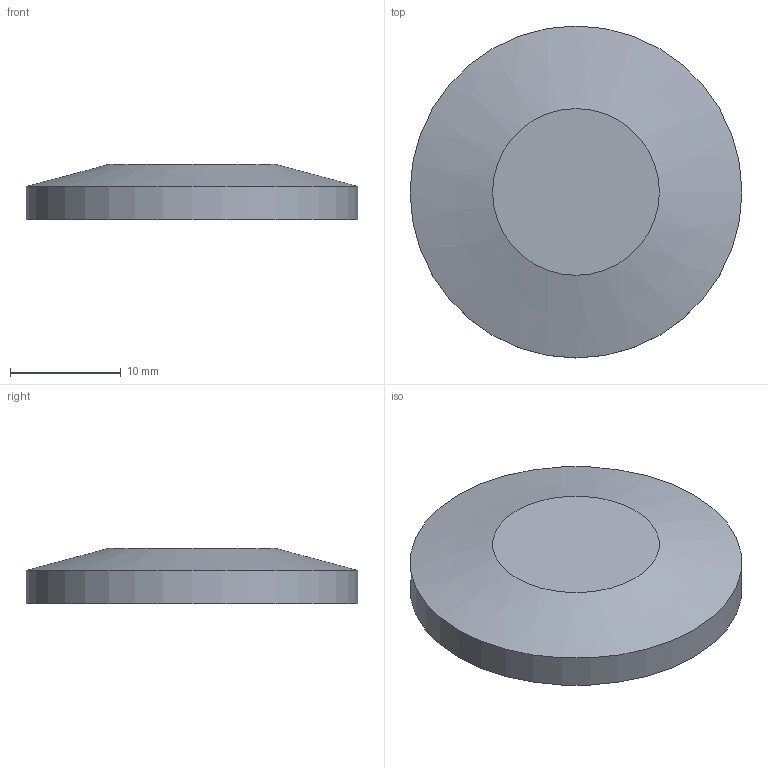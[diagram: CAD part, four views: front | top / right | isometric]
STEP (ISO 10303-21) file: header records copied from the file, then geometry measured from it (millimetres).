
FILE_DESCRIPTION( ( 'Unknown' ), '1' );
FILE_NAME( 'X:/Daten ( aktueller Bestand )/Projekte und Zeichnungen/Solid Edge/2 Bauteile KF/Messing/Blindflansch Messing/1412.stp', 'Unknown', ( 'Unknown' ), ( 'Unknown' ), 'XStep 1.0', 'Unknown', ' ' );
FILE_SCHEMA( ( 'automotive_design' ) );
Length unit declared in the file: millimetre
Products named in the file (1): 1
Bounding box: 30 x 30 x 5 mm (x, y, z)
Volume: 2551.4 mm3; surface area: 1926.4 mm2
Topology: 1 solids, 1 shells, 8 faces, 11 edges, 7 vertices
Faces by surface type: plane 4, cylinder 3, cone 1
Full cylindrical faces by diameter (mm): 9.7 x1, 17.2 x1, 30 x1
Entity records: 234 total; most frequent: DIRECTION 32, CARTESIAN_POINT 23, AXIS2_PLACEMENT_3D 16, EDGE_LOOP 14, ORIENTED_EDGE 14, FACE_OUTER_BOUND 11, STYLED_ITEM 8, PRESENTATION_STYLE_ASSIGNMENT 8
